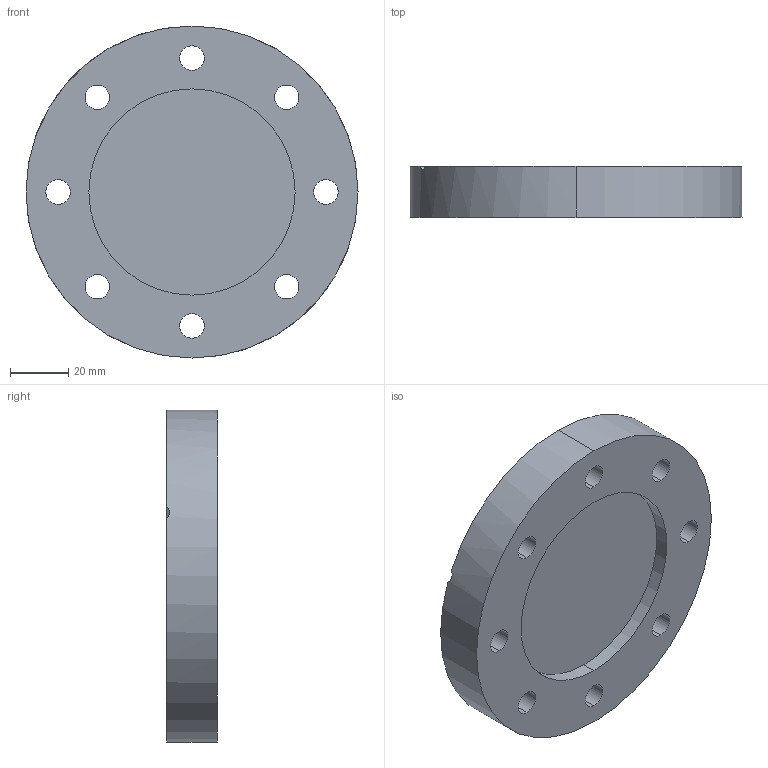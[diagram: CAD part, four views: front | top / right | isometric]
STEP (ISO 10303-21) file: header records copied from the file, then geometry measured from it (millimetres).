
FILE_DESCRIPTION (( 'STEP AP214' ), '1' );
FILE_NAME ('W6BCFD63.STEP', '2021-02-26T11:59:52', ( '' ), ( '' ), 'SwSTEP 2.0', 'SolidWorks 2020', '' );
FILE_SCHEMA (( 'AUTOMOTIVE_DESIGN' ));
Length unit declared in the file: millimetre
Products named in the file (1): W6BCFD63
Bounding box: 114.3 x 17.5 x 114.3 mm (x, y, z)
Volume: 145832.2 mm3; surface area: 39718.5 mm2
Topology: 2 solids, 2 shells, 48 faces, 116 edges, 74 vertices
Faces by surface type: cylinder 30, plane 8, cone 6, torus 4
Entity records: 1573 total; most frequent: CARTESIAN_POINT 307, DIRECTION 284, ORIENTED_EDGE 232, AXIS2_PLACEMENT_3D 123, EDGE_CURVE 116, CIRCLE 74, VERTEX_POINT 74, EDGE_LOOP 68
